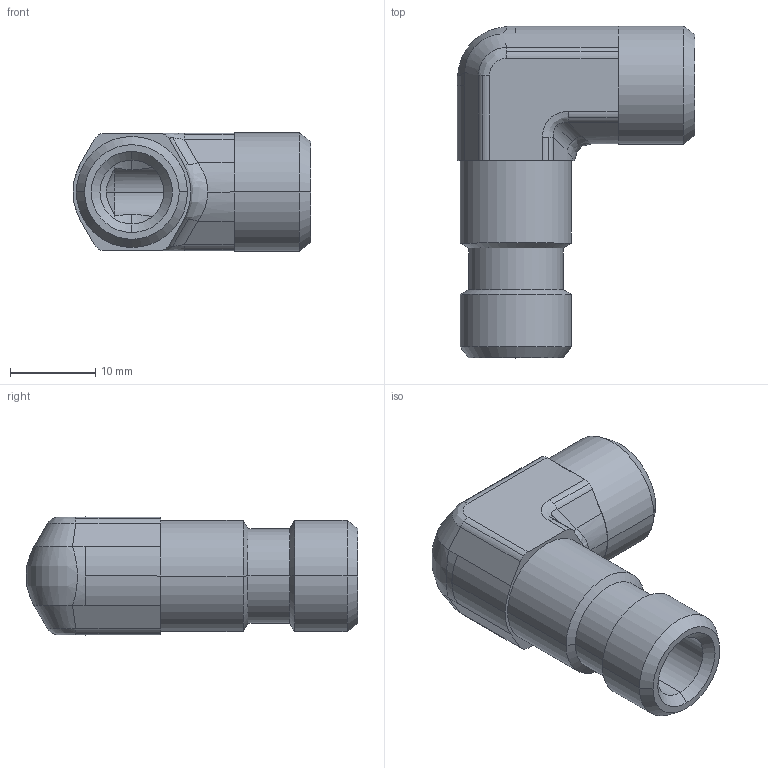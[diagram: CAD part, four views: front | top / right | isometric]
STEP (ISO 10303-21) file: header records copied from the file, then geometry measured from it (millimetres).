
FILE_DESCRIPTION((''),'2;1');
FILE_NAME('106105.stp','2007-10-31T14:51:23',(''),(''),'AutoCAD STEP 2000i','AutoCAD 2000i',', , ');
FILE_SCHEMA(('CONFIG_CONTROL_DESIGN'));
Length unit declared in the file: millimetre
Products named in the file (2): 106105.0; 3090#0
Assembly tree (1 placements, depth 2):
  106105.0
    3090#0
Bounding box: 27.9 x 38.92 x 13.85 mm (x, y, z)
Volume: 5201.5 mm3; surface area: 3616.2 mm2
Topology: 1 solids, 1 shells, 95 faces, 222 edges, 131 vertices
Faces by surface type: cylinder 42, plane 22, cone 19, bspline 12
Entity records: 3514 total; most frequent: CARTESIAN_POINT 1234, DIRECTION 480, ORIENTED_EDGE 444, EDGE_CURVE 222, AXIS2_PLACEMENT_3D 194, VERTEX_POINT 131, CIRCLE 99, EDGE_LOOP 99
